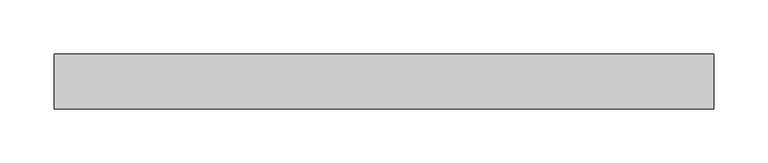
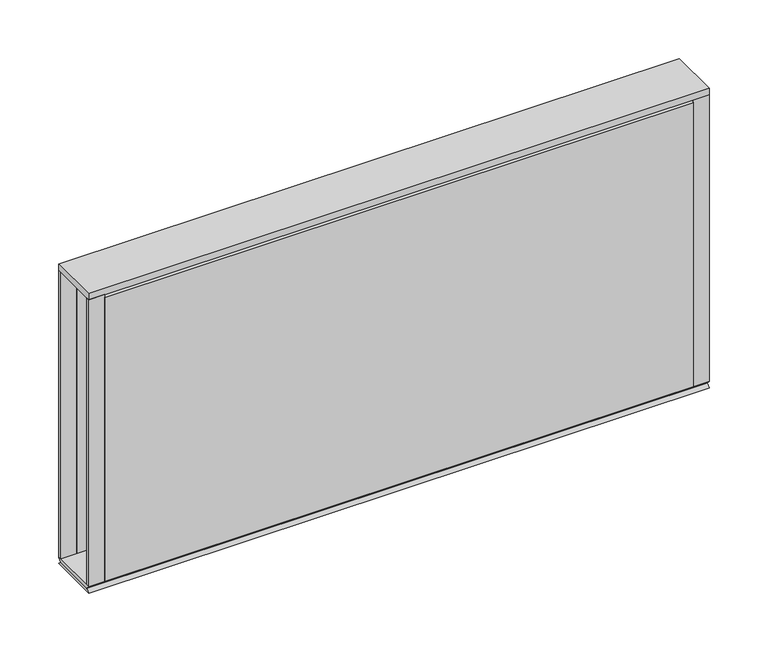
"""IFC4 building model written with IfcOpenShell, lengths in millimetres: furniture geometry, Steelcase - Kick Solutions - Panel - Stacker - Tackable Acoustical : 12H x 24W."""

from ifc_helpers import new_model, si_unit, frame, origin, place, context, project, spatial, polyline, outline, extrude, source, transform, mapped, element, save


def furniture_ccb4b3f5(model_context):
    return source(origin(), model_context, "Body", "SweptSolid", [
        extrude(outline(polyline([(-50.7995075, 1073.2669139), (-0.000494, 1073.2669139), (-3.1752531, 1070.0921549), (-47.6247484, 1070.0921549), (-50.7995075, 1073.2669139)])), frame((0.0, 0.0, 0.0), z_axis=(1.0, 0.0, 0.0), x_axis=(0.0, 1.0, 0.0)), (0.0, 0.0, 1.0), 609.6),
        extrude(outline(polyline([(0.0, 1073.2669139), (-3.1750015, 1073.2669139), (-3.1750015, 1371.7169018), (0.0, 1368.6357466), (0.0, 1073.2669139)])), frame((15.8749996, 0.0, 0.0), z_axis=(1.0, 0.0, 0.0), x_axis=(0.0, 1.0, 0.0)), (0.0, 0.0, 1.0), 577.8500008),
        extrude(outline(polyline([(-50.8000015, 1073.2669139), (-50.8000015, 1368.6357466), (-47.625, 1371.7169018), (-47.625, 1073.2669139), (-50.8000015, 1073.2669139)])), frame((15.8749996, 0.0, 0.0), z_axis=(1.0, 0.0, 0.0), x_axis=(0.0, 1.0, 0.0)), (0.0, 0.0, 1.0), 577.8500008),
        extrude(outline(polyline([(609.6, -3.1750015), (593.7250004, -3.1750015), (593.7250004, 0.0), (609.6, 0.0), (609.6, -3.1750015)])), frame((0.0, 0.0, 1073.2669139), z_axis=(0.0, 0.0, 1.0), x_axis=(1.0, 0.0, 0.0)), (0.0, 0.0, 1.0), 298.4499879),
        extrude(outline(polyline([(15.8749996, -50.8000015), (0.0, -50.8000015), (0.0, -47.625), (15.8749996, -47.625), (15.8749996, -50.8000015)])), frame((0.0, 0.0, 1073.2669139), z_axis=(0.0, 0.0, 1.0), x_axis=(1.0, 0.0, 0.0)), (0.0, 0.0, 1.0), 298.4499879),
        extrude(outline(polyline([(609.6, 0.0), (609.6, -50.8000015), (0.0, -50.8000015), (0.0, 0.0), (609.6, 0.0)])), frame((0.0, 0.0, 1371.7169018), z_axis=(0.0, 0.0, 1.0), x_axis=(1.0, 0.0, 0.0)), (0.0, 0.0, 1.0), 6.35),
        extrude(outline(polyline([(15.8749996, -3.1750015), (0.0, -3.1750015), (0.0, 0.0), (15.8749996, 0.0), (15.8749996, -3.1750015)])), frame((0.0, 0.0, 1073.2669139), z_axis=(0.0, 0.0, 1.0), x_axis=(1.0, 0.0, 0.0)), (0.0, 0.0, 1.0), 298.4499879),
        extrude(outline(polyline([(609.6, -50.8000015), (593.7250004, -50.8000015), (593.7250004, -47.625), (609.6, -47.625), (609.6, -50.8000015)])), frame((0.0, 0.0, 1073.2669139), z_axis=(0.0, 0.0, 1.0), x_axis=(1.0, 0.0, 0.0)), (0.0, 0.0, 1.0), 298.4499879),
        extrude(outline(polyline([(-50.8000015, 1066.9169018), (-47.6247484, 1070.0921549), (-3.1752531, 1070.0921549), (0.0, 1066.9169018), (-50.8000015, 1066.9169018)])), frame((0.0, 0.0, 0.0), z_axis=(1.0, 0.0, 0.0), x_axis=(0.0, 1.0, 0.0)), (0.0, 0.0, 1.0), 609.6),
    ])


if __name__ == "__main__":
    model = new_model("IFC4")
    model_context = context("Model", 3, world=origin())
    ifc_project = project(units=[si_unit("LENGTHUNIT", "METRE", prefix="MILLI")], contexts=[model_context])
    site = spatial("IfcSite", under=ifc_project)
    building = spatial("IfcBuilding", under=site)
    placement = place(None, origin())
    furniture_shape = furniture_ccb4b3f5(model_context)
    element("IfcFurniture", 1, ObjectType="Steelcase - Kick Solutions - Panel - Stacker - Tackable Acoustical : 12H x 24W", at=placement, inside=building, context=model_context, shape_type="MappedRepresentation", body=[
        mapped(furniture_shape, transform((0.0, 0.0, 0.0), x_axis=(1.0, 0.0, 0.0), y_axis=(0.0, 1.0, 0.0), z_axis=(0.0, 0.0, 1.0))),
    ])
    save(model, "model.ifc")
